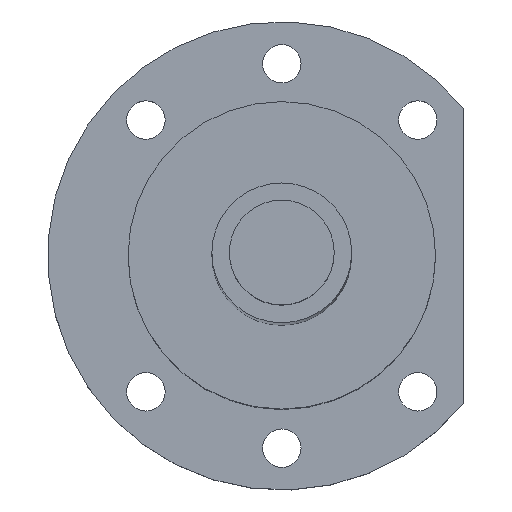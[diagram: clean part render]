
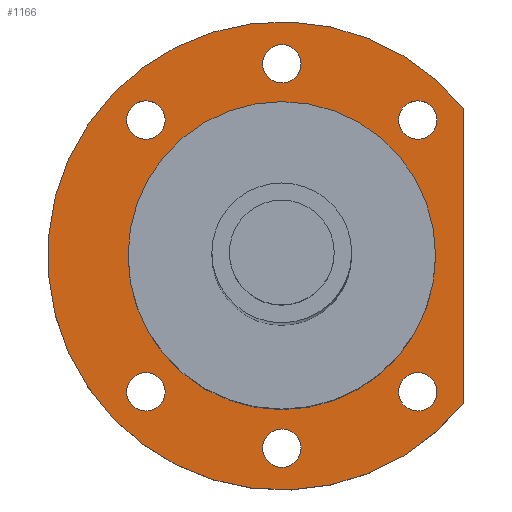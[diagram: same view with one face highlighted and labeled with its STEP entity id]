
A CAD part, top view. The second image highlights one B-rep face of the part: STEP entity #1166.
In plain terms, the highlighted planar face has unit normal (0, 0, 1).
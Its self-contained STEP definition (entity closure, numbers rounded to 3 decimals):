
#162=CARTESIAN_POINT('',(19.445,19.445,306.5));
#163=DIRECTION('',(0.,0.,-1.));
#164=DIRECTION('',(1.,0.,0.));
#165=AXIS2_PLACEMENT_3D('',#162,#163,#164);
#167=CARTESIAN_POINT('',(19.445,19.445,306.5));
#168=DIRECTION('',(0.,0.,-1.));
#169=DIRECTION('',(-1.,0.,0.));
#170=AXIS2_PLACEMENT_3D('',#167,#168,#169);
#172=CARTESIAN_POINT('',(0.,27.5,306.5));
#173=DIRECTION('',(0.,0.,-1.));
#174=DIRECTION('',(1.,0.,0.));
#175=AXIS2_PLACEMENT_3D('',#172,#173,#174);
#177=CARTESIAN_POINT('',(0.,27.5,306.5));
#178=DIRECTION('',(0.,0.,-1.));
#179=DIRECTION('',(-1.,0.,0.));
#180=AXIS2_PLACEMENT_3D('',#177,#178,#179);
#182=CARTESIAN_POINT('',(-19.445,19.445,306.5));
#183=DIRECTION('',(0.,0.,-1.));
#184=DIRECTION('',(1.,0.,0.));
#185=AXIS2_PLACEMENT_3D('',#182,#183,#184);
#187=CARTESIAN_POINT('',(-19.445,19.445,306.5));
#188=DIRECTION('',(0.,0.,-1.));
#189=DIRECTION('',(-1.,0.,0.));
#190=AXIS2_PLACEMENT_3D('',#187,#188,#189);
#192=CARTESIAN_POINT('',(-19.445,-19.445,306.5));
#193=DIRECTION('',(0.,0.,-1.));
#194=DIRECTION('',(1.,0.,0.));
#195=AXIS2_PLACEMENT_3D('',#192,#193,#194);
#197=CARTESIAN_POINT('',(-19.445,-19.445,306.5));
#198=DIRECTION('',(0.,0.,-1.));
#199=DIRECTION('',(-1.,0.,0.));
#200=AXIS2_PLACEMENT_3D('',#197,#198,#199);
#202=CARTESIAN_POINT('',(0.,-27.5,306.5));
#203=DIRECTION('',(0.,0.,-1.));
#204=DIRECTION('',(1.,0.,0.));
#205=AXIS2_PLACEMENT_3D('',#202,#203,#204);
#207=CARTESIAN_POINT('',(0.,-27.5,306.5));
#208=DIRECTION('',(0.,0.,-1.));
#209=DIRECTION('',(-1.,0.,0.));
#210=AXIS2_PLACEMENT_3D('',#207,#208,#209);
#212=CARTESIAN_POINT('',(19.445,-19.445,306.5));
#213=DIRECTION('',(0.,0.,-1.));
#214=DIRECTION('',(1.,0.,0.));
#215=AXIS2_PLACEMENT_3D('',#212,#213,#214);
#217=CARTESIAN_POINT('',(19.445,-19.445,306.5));
#218=DIRECTION('',(0.,0.,-1.));
#219=DIRECTION('',(-1.,0.,0.));
#220=AXIS2_PLACEMENT_3D('',#217,#218,#219);
#222=CARTESIAN_POINT('',(0.,0.,306.5));
#223=DIRECTION('',(0.,0.,1.));
#224=DIRECTION('',(0.776,0.631,0.));
#225=AXIS2_PLACEMENT_3D('',#222,#223,#224);
#227=DIRECTION('',(0.,1.,0.));
#228=VECTOR('',#227,42.249);
#229=CARTESIAN_POINT('',(26.,-21.125,306.5));
#230=LINE('',#229,#228);
#231=CARTESIAN_POINT('',(0.,0.,306.5));
#232=DIRECTION('',(0.,0.,1.));
#233=DIRECTION('',(0.,-1.,0.));
#234=AXIS2_PLACEMENT_3D('',#231,#232,#233);
#236=CARTESIAN_POINT('',(0.,0.,306.5));
#237=DIRECTION('',(0.,0.,1.));
#238=DIRECTION('',(0.,1.,0.));
#239=AXIS2_PLACEMENT_3D('',#236,#237,#238);
#751=CARTESIAN_POINT('',(22.195,19.445,306.5));
#752=CARTESIAN_POINT('',(16.695,19.445,306.5));
#753=VERTEX_POINT('',#751);
#754=VERTEX_POINT('',#752);
#755=CARTESIAN_POINT('',(2.75,27.5,306.5));
#756=CARTESIAN_POINT('',(-2.75,27.5,306.5));
#757=VERTEX_POINT('',#755);
#758=VERTEX_POINT('',#756);
#759=CARTESIAN_POINT('',(-16.695,19.445,306.5));
#760=CARTESIAN_POINT('',(-22.195,19.445,306.5));
#761=VERTEX_POINT('',#759);
#762=VERTEX_POINT('',#760);
#763=CARTESIAN_POINT('',(-16.695,-19.445,306.5));
#764=CARTESIAN_POINT('',(-22.195,-19.445,306.5));
#765=VERTEX_POINT('',#763);
#766=VERTEX_POINT('',#764);
#767=CARTESIAN_POINT('',(2.75,-27.5,306.5));
#768=CARTESIAN_POINT('',(-2.75,-27.5,306.5));
#769=VERTEX_POINT('',#767);
#770=VERTEX_POINT('',#768);
#771=CARTESIAN_POINT('',(22.195,-19.445,306.5));
#772=CARTESIAN_POINT('',(16.695,-19.445,306.5));
#773=VERTEX_POINT('',#771);
#774=VERTEX_POINT('',#772);
#775=CARTESIAN_POINT('',(26.,21.125,306.5));
#776=CARTESIAN_POINT('',(26.,-21.125,306.5));
#777=VERTEX_POINT('',#775);
#778=VERTEX_POINT('',#776);
#859=CARTESIAN_POINT('',(0.,-22.,306.5));
#860=CARTESIAN_POINT('',(0.,22.,306.5));
#861=VERTEX_POINT('',#859);
#862=VERTEX_POINT('',#860);
#1115=CARTESIAN_POINT('',(0.,0.,306.5));
#1116=DIRECTION('',(0.,0.,1.));
#1117=DIRECTION('',(1.,0.,0.));
#1118=AXIS2_PLACEMENT_3D('',#1115,#1116,#1117);
#1119=PLANE('',#1118);
#1120=ORIENTED_EDGE('',*,*,#1095,.F.);
#1121=ORIENTED_EDGE('',*,*,#1109,.F.);
#1122=EDGE_LOOP('',(#1120,#1121));
#1123=FACE_OUTER_BOUND('',#1122,.F.);
#1125=ORIENTED_EDGE('',*,*,#1124,.F.);
#1127=ORIENTED_EDGE('',*,*,#1126,.F.);
#1128=EDGE_LOOP('',(#1125,#1127));
#1129=FACE_BOUND('',#1128,.F.);
#1131=ORIENTED_EDGE('',*,*,#1130,.F.);
#1133=ORIENTED_EDGE('',*,*,#1132,.F.);
#1134=EDGE_LOOP('',(#1131,#1133));
#1135=FACE_BOUND('',#1134,.F.);
#1137=ORIENTED_EDGE('',*,*,#1136,.F.);
#1139=ORIENTED_EDGE('',*,*,#1138,.F.);
#1140=EDGE_LOOP('',(#1137,#1139));
#1141=FACE_BOUND('',#1140,.F.);
#1143=ORIENTED_EDGE('',*,*,#1142,.F.);
#1145=ORIENTED_EDGE('',*,*,#1144,.F.);
#1146=EDGE_LOOP('',(#1143,#1145));
#1147=FACE_BOUND('',#1146,.F.);
#1149=ORIENTED_EDGE('',*,*,#1148,.F.);
#1151=ORIENTED_EDGE('',*,*,#1150,.F.);
#1152=EDGE_LOOP('',(#1149,#1151));
#1153=FACE_BOUND('',#1152,.F.);
#1155=ORIENTED_EDGE('',*,*,#1154,.F.);
#1157=ORIENTED_EDGE('',*,*,#1156,.F.);
#1158=EDGE_LOOP('',(#1155,#1157));
#1159=FACE_BOUND('',#1158,.F.);
#1161=ORIENTED_EDGE('',*,*,#1160,.T.);
#1163=ORIENTED_EDGE('',*,*,#1162,.T.);
#1164=EDGE_LOOP('',(#1161,#1163));
#1165=FACE_BOUND('',#1164,.F.);
#1166=ADVANCED_FACE('',(#1123,#1129,#1135,#1141,#1147,#1153,#1159,#1165),#1119,
.T.);
#166=CIRCLE('',#165,2.75);
#171=CIRCLE('',#170,2.75);
#176=CIRCLE('',#175,2.75);
#181=CIRCLE('',#180,2.75);
#186=CIRCLE('',#185,2.75);
#191=CIRCLE('',#190,2.75);
#196=CIRCLE('',#195,2.75);
#201=CIRCLE('',#200,2.75);
#206=CIRCLE('',#205,2.75);
#211=CIRCLE('',#210,2.75);
#216=CIRCLE('',#215,2.75);
#221=CIRCLE('',#220,2.75);
#226=CIRCLE('',#225,33.5);
#235=CIRCLE('',#234,22.);
#240=CIRCLE('',#239,22.);
#1095=EDGE_CURVE('',#777,#778,#226,.T.);
#1109=EDGE_CURVE('',#778,#777,#230,.T.);
#1124=EDGE_CURVE('',#753,#754,#166,.T.);
#1126=EDGE_CURVE('',#754,#753,#171,.T.);
#1130=EDGE_CURVE('',#757,#758,#176,.T.);
#1132=EDGE_CURVE('',#758,#757,#181,.T.);
#1136=EDGE_CURVE('',#761,#762,#186,.T.);
#1138=EDGE_CURVE('',#762,#761,#191,.T.);
#1142=EDGE_CURVE('',#765,#766,#196,.T.);
#1144=EDGE_CURVE('',#766,#765,#201,.T.);
#1148=EDGE_CURVE('',#769,#770,#206,.T.);
#1150=EDGE_CURVE('',#770,#769,#211,.T.);
#1154=EDGE_CURVE('',#773,#774,#216,.T.);
#1156=EDGE_CURVE('',#774,#773,#221,.T.);
#1160=EDGE_CURVE('',#861,#862,#235,.T.);
#1162=EDGE_CURVE('',#862,#861,#240,.T.);
